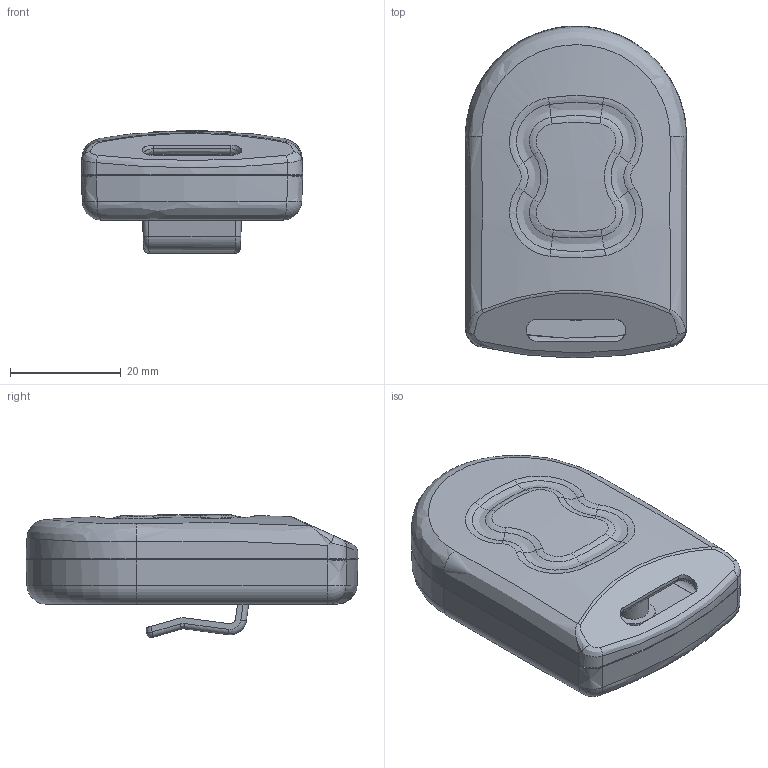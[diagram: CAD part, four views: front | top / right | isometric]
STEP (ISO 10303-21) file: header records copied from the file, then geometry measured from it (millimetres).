
FILE_DESCRIPTION(/* description */ (''),/* implementation_level */ '2;1');
FILE_NAME(/* name */ 'A2_ZP.stp',/* time_stamp */ '2018-06-01T15:50:50+08:00',/* author */ (''),/* organization */ (''),/* preprocessor_version */ 'ST-DEVELOPER v16',/* originating_system */ 'SIEMENS PLM Software NX 10.0',/* authorisation */ '');
FILE_SCHEMA (('AUTOMOTIVE_DESIGN { 1 0 10303 214 3 1 1 1 }'));
Length unit declared in the file: millimetre
Products named in the file (3): 零件007_id11_x_t; A02_id6_x_t; A2_ZP_x_t
Assembly tree (2 placements, depth 2):
  A2_ZP_x_t
    A02_id6_x_t
    零件007_id11_x_t
Bounding box: 40 x 60 x 22.19 mm (x, y, z)
Volume: 11755.2 mm3; surface area: 13603.6 mm2
Topology: 2 solids, 2 shells, 178 faces, 433 edges, 267 vertices
Faces by surface type: bspline 76, plane 56, cylinder 37, sphere 4, cone 3, torus 2
Full cylindrical faces by diameter (mm): 3 x2, 3.5 x2, 7 x2, 7.5 x2, 9.5 x2
Entity records: 9616 total; most frequent: CARTESIAN_POINT 6198, ORIENTED_EDGE 854, DIRECTION 454, EDGE_CURVE 427, VERTEX_POINT 267, EDGE_LOOP 200, B_SPLINE_CURVE_WITH_KNOTS 193, ADVANCED_FACE 178
